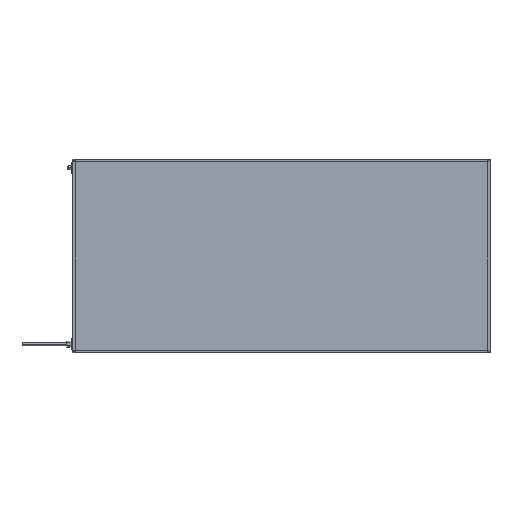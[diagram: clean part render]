
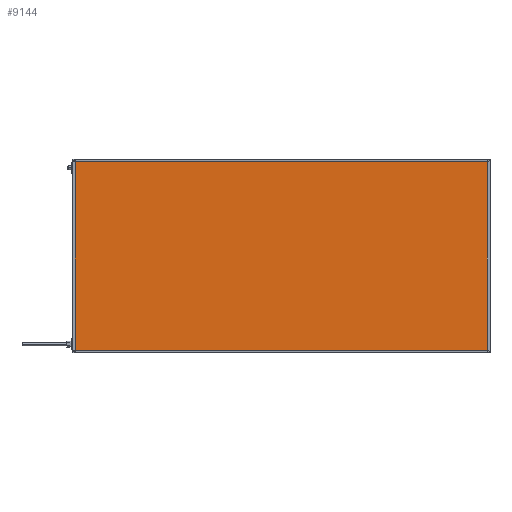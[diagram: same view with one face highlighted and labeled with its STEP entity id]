
A CAD part, top view. The second image highlights one B-rep face of the part: STEP entity #9144.
In plain terms, the highlighted planar face has unit normal (0, 0, 1).
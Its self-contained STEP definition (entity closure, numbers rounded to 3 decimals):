
#404 = VERTEX_POINT ( 'NONE', #10715 ) ;
#1104 = DIRECTION ( 'NONE',  ( -1., 0., 0. ) ) ;
#2201 = CARTESIAN_POINT ( 'NONE',  ( 0., 596., 41.85 ) ) ;
#2786 = AXIS2_PLACEMENT_3D ( 'NONE', #6678, #4101, #1104 ) ;
#2980 = VERTEX_POINT ( 'NONE', #8193 ) ;
#4101 = DIRECTION ( 'NONE',  ( 0., 0., -1. ) ) ;
#4201 = VECTOR ( 'NONE', #16278, 1000. ) ;
#4448 = CARTESIAN_POINT ( 'NONE',  ( 4., 0., 41.85 ) ) ;
#4452 = EDGE_CURVE ( 'NONE', #13140, #404, #6169, .T. ) ;
#5277 = CARTESIAN_POINT ( 'NONE',  ( 1296., 0., 41.85 ) ) ;
#5336 = VECTOR ( 'NONE', #15575, 1000. ) ;
#5481 = FACE_OUTER_BOUND ( 'NONE', #11035, .T. ) ;
#5942 = CARTESIAN_POINT ( 'NONE',  ( 4., 4., 41.85 ) ) ;
#6169 = LINE ( 'NONE', #14463, #4201 ) ;
#6362 = ORIENTED_EDGE ( 'NONE', *, *, #13188, .T. ) ;
#6678 = CARTESIAN_POINT ( 'NONE',  ( 0., 0., 41.85 ) ) ;
#8099 = DIRECTION ( 'NONE',  ( 0., 1., 0. ) ) ;
#8193 = CARTESIAN_POINT ( 'NONE',  ( 4., 596., 41.85 ) ) ;
#8639 = ORIENTED_EDGE ( 'NONE', *, *, #4452, .T. ) ;
#9144 = ADVANCED_FACE ( 'NONE', ( #5481 ), #9494, .F. ) ;
#9386 = DIRECTION ( 'NONE',  ( -1., 0., 0. ) ) ;
#9494 = PLANE ( 'NONE',  #2786 ) ;
#9510 = VERTEX_POINT ( 'NONE', #16228 ) ;
#10018 = VECTOR ( 'NONE', #8099, 1000. ) ;
#10715 = CARTESIAN_POINT ( 'NONE',  ( 1296., 4., 41.85 ) ) ;
#11035 = EDGE_LOOP ( 'NONE', ( #17149, #6362, #15826, #8639 ) ) ;
#11279 = LINE ( 'NONE', #4448, #5336 ) ;
#13140 = VERTEX_POINT ( 'NONE', #5942 ) ;
#13188 = EDGE_CURVE ( 'NONE', #9510, #2980, #17610, .T. ) ;
#13443 = EDGE_CURVE ( 'NONE', #2980, #13140, #11279, .T. ) ;
#14463 = CARTESIAN_POINT ( 'NONE',  ( 0., 4., 41.85 ) ) ;
#15575 = DIRECTION ( 'NONE',  ( 0., -1., 0. ) ) ;
#15826 = ORIENTED_EDGE ( 'NONE', *, *, #13443, .T. ) ;
#16088 = VECTOR ( 'NONE', #9386, 1000. ) ;
#16228 = CARTESIAN_POINT ( 'NONE',  ( 1296., 596., 41.85 ) ) ;
#16278 = DIRECTION ( 'NONE',  ( 1., 0., 0. ) ) ;
#17149 = ORIENTED_EDGE ( 'NONE', *, *, #17926, .T. ) ;
#17610 = LINE ( 'NONE', #2201, #16088 ) ;
#17764 = LINE ( 'NONE', #5277, #10018 ) ;
#17926 = EDGE_CURVE ( 'NONE', #404, #9510, #17764, .T. ) ;
